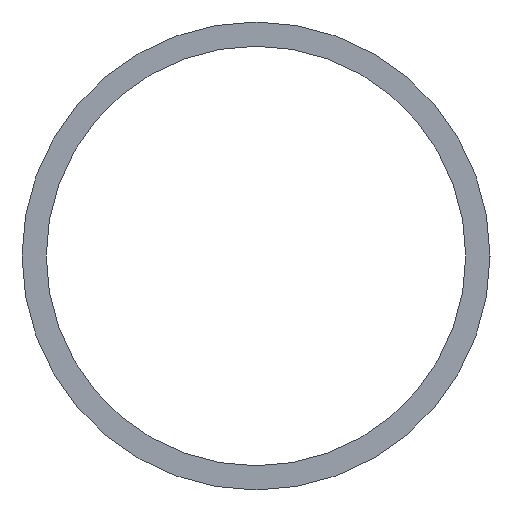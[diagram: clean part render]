
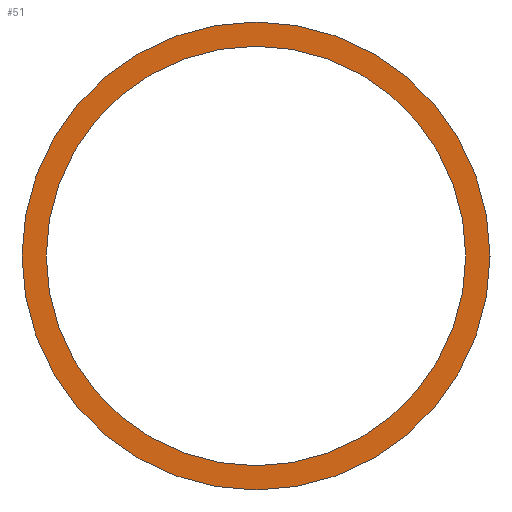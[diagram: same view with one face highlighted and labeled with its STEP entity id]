
A CAD part, left-side view. The second image highlights one B-rep face of the part: STEP entity #51.
In plain terms, the highlighted planar face has unit normal (-1, 0, 0).
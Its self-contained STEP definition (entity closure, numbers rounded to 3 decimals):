
#1 = DIRECTION ( 'NONE',  ( 1., 0., 0. ) ) ;
#13 = DIRECTION ( 'NONE',  ( 0., 0., -1. ) ) ;
#22 = EDGE_CURVE ( 'NONE', #23, #201, #202, .T. ) ;
#23 = VERTEX_POINT ( 'NONE', #140 ) ;
#24 = EDGE_CURVE ( 'NONE', #212, #203, #119, .T. ) ;
#29 = DIRECTION ( 'NONE',  ( 1., 0., 0. ) ) ;
#34 = AXIS2_PLACEMENT_3D ( 'NONE', #139, #208, #187 ) ;
#40 = ORIENTED_EDGE ( 'NONE', *, *, #75, .T. ) ;
#41 = CIRCLE ( 'NONE', #49, 24.15 ) ;
#42 = FACE_OUTER_BOUND ( 'NONE', #44, .T. ) ;
#44 = EDGE_LOOP ( 'NONE', ( #115, #58 ) ) ;
#49 = AXIS2_PLACEMENT_3D ( 'NONE', #160, #94, #143 ) ;
#51 = ADVANCED_FACE ( 'NONE', ( #42, #154 ), #193, .F. ) ;
#53 = DIRECTION ( 'NONE',  ( 0., 0., -1. ) ) ;
#58 = ORIENTED_EDGE ( 'NONE', *, *, #161, .F. ) ;
#69 = CARTESIAN_POINT ( 'NONE',  ( 7067.5, 1810., 3495.85 ) ) ;
#71 = CARTESIAN_POINT ( 'NONE',  ( 7067.5, 1810., 3520. ) ) ;
#75 = EDGE_CURVE ( 'NONE', #201, #23, #86, .T. ) ;
#76 = DIRECTION ( 'NONE',  ( 0., 0., -1. ) ) ;
#80 = DIRECTION ( 'NONE',  ( 1., 0., 0. ) ) ;
#83 = CARTESIAN_POINT ( 'NONE',  ( 7067.5, 1810., 3471.7 ) ) ;
#86 = CIRCLE ( 'NONE', #127, 21.65 ) ;
#88 = CARTESIAN_POINT ( 'NONE',  ( 7067.5, 1810., 3495.85 ) ) ;
#89 = CARTESIAN_POINT ( 'NONE',  ( 7067.5, 1810., 3495.85 ) ) ;
#94 = DIRECTION ( 'NONE',  ( 1., 0., 0. ) ) ;
#106 = AXIS2_PLACEMENT_3D ( 'NONE', #89, #29, #13 ) ;
#115 = ORIENTED_EDGE ( 'NONE', *, *, #24, .F. ) ;
#119 = CIRCLE ( 'NONE', #34, 24.15 ) ;
#122 = ORIENTED_EDGE ( 'NONE', *, *, #22, .T. ) ;
#127 = AXIS2_PLACEMENT_3D ( 'NONE', #69, #1, #53 ) ;
#139 = CARTESIAN_POINT ( 'NONE',  ( 7067.5, 1810., 3495.85 ) ) ;
#140 = CARTESIAN_POINT ( 'NONE',  ( 7067.5, 1810., 3517.5 ) ) ;
#143 = DIRECTION ( 'NONE',  ( 0., 0., -1. ) ) ;
#154 = FACE_BOUND ( 'NONE', #185, .T. ) ;
#160 = CARTESIAN_POINT ( 'NONE',  ( 7067.5, 1810., 3495.85 ) ) ;
#161 = EDGE_CURVE ( 'NONE', #203, #212, #41, .T. ) ;
#163 = CARTESIAN_POINT ( 'NONE',  ( 7067.5, 1810., 3474.2 ) ) ;
#164 = AXIS2_PLACEMENT_3D ( 'NONE', #88, #80, #76 ) ;
#185 = EDGE_LOOP ( 'NONE', ( #122, #40 ) ) ;
#187 = DIRECTION ( 'NONE',  ( 0., 0., -1. ) ) ;
#193 = PLANE ( 'NONE',  #106 ) ;
#201 = VERTEX_POINT ( 'NONE', #163 ) ;
#202 = CIRCLE ( 'NONE', #164, 21.65 ) ;
#203 = VERTEX_POINT ( 'NONE', #83 ) ;
#208 = DIRECTION ( 'NONE',  ( 1., 0., 0. ) ) ;
#212 = VERTEX_POINT ( 'NONE', #71 ) ;
